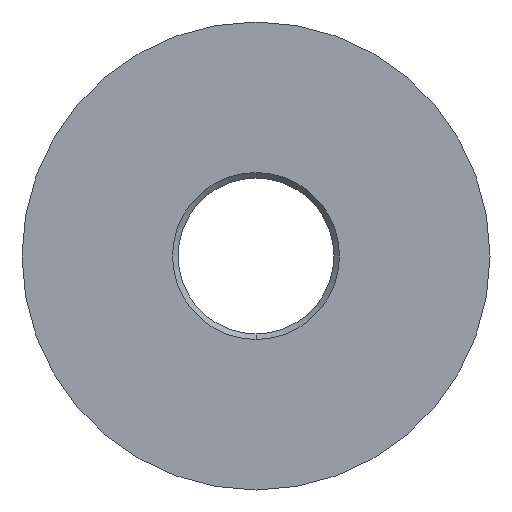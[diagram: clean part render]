
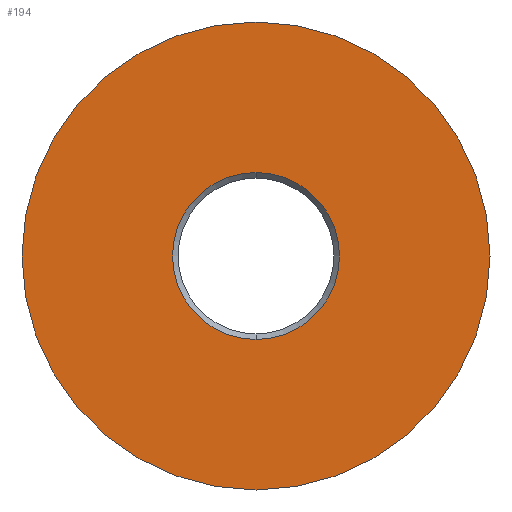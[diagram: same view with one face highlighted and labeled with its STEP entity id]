
A CAD part, front view. The second image highlights one B-rep face of the part: STEP entity #194.
In plain terms, the highlighted planar face has unit normal (0, -1, 0).
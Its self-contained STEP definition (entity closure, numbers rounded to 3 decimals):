
#24 = CARTESIAN_POINT ( 'NONE',  ( 0., 0., 0. ) ) ;
#28 = CARTESIAN_POINT ( 'NONE',  ( 0., 0., 0. ) ) ;
#38 = AXIS2_PLACEMENT_3D ( 'NONE', #244, #82, #405 ) ;
#41 = DIRECTION ( 'NONE',  ( 0., 0., -1. ) ) ;
#56 = CIRCLE ( 'NONE', #401, 21.01 ) ;
#71 = DIRECTION ( 'NONE',  ( 0., 1., 0. ) ) ;
#82 = DIRECTION ( 'NONE',  ( 0., -1., 0. ) ) ;
#87 = AXIS2_PLACEMENT_3D ( 'NONE', #303, #257, #211 ) ;
#98 = CIRCLE ( 'NONE', #262, 7.5 ) ;
#142 = PLANE ( 'NONE',  #38 ) ;
#163 = CARTESIAN_POINT ( 'NONE',  ( 0., 0., 7.5 ) ) ;
#170 = CIRCLE ( 'NONE', #87, 7.5 ) ;
#187 = EDGE_LOOP ( 'NONE', ( #347, #454 ) ) ;
#194 = ADVANCED_FACE ( 'NONE', ( #534, #304 ), #142, .T. ) ;
#199 = DIRECTION ( 'NONE',  ( 0., 0., -1. ) ) ;
#211 = DIRECTION ( 'NONE',  ( 0., 0., -1. ) ) ;
#214 = CIRCLE ( 'NONE', #508, 21.01 ) ;
#226 = EDGE_CURVE ( 'NONE', #238, #472, #170, .T. ) ;
#238 = VERTEX_POINT ( 'NONE', #163 ) ;
#244 = CARTESIAN_POINT ( 'NONE',  ( 21.01, 0., 0. ) ) ;
#257 = DIRECTION ( 'NONE',  ( 0., 1., 0. ) ) ;
#262 = AXIS2_PLACEMENT_3D ( 'NONE', #24, #71, #300 ) ;
#277 = CARTESIAN_POINT ( 'NONE',  ( 0., 0., -7.5 ) ) ;
#288 = ORIENTED_EDGE ( 'NONE', *, *, #226, .T. ) ;
#291 = VERTEX_POINT ( 'NONE', #368 ) ;
#300 = DIRECTION ( 'NONE',  ( 0., 0., -1. ) ) ;
#303 = CARTESIAN_POINT ( 'NONE',  ( 0., 0., 0. ) ) ;
#304 = FACE_OUTER_BOUND ( 'NONE', #187, .T. ) ;
#306 = EDGE_CURVE ( 'NONE', #472, #238, #98, .T. ) ;
#325 = EDGE_CURVE ( 'NONE', #291, #545, #56, .T. ) ;
#347 = ORIENTED_EDGE ( 'NONE', *, *, #535, .T. ) ;
#368 = CARTESIAN_POINT ( 'NONE',  ( 0., 0., 21.01 ) ) ;
#383 = CARTESIAN_POINT ( 'NONE',  ( 0., 0., -21.01 ) ) ;
#385 = DIRECTION ( 'NONE',  ( 0., -1., 0. ) ) ;
#390 = ORIENTED_EDGE ( 'NONE', *, *, #306, .T. ) ;
#401 = AXIS2_PLACEMENT_3D ( 'NONE', #28, #402, #199 ) ;
#402 = DIRECTION ( 'NONE',  ( 0., -1., 0. ) ) ;
#405 = DIRECTION ( 'NONE',  ( 0., 0., -1. ) ) ;
#454 = ORIENTED_EDGE ( 'NONE', *, *, #325, .T. ) ;
#461 = EDGE_LOOP ( 'NONE', ( #390, #288 ) ) ;
#467 = CARTESIAN_POINT ( 'NONE',  ( 0., 0., 0. ) ) ;
#472 = VERTEX_POINT ( 'NONE', #277 ) ;
#508 = AXIS2_PLACEMENT_3D ( 'NONE', #467, #385, #41 ) ;
#534 = FACE_BOUND ( 'NONE', #461, .T. ) ;
#535 = EDGE_CURVE ( 'NONE', #545, #291, #214, .T. ) ;
#545 = VERTEX_POINT ( 'NONE', #383 ) ;
